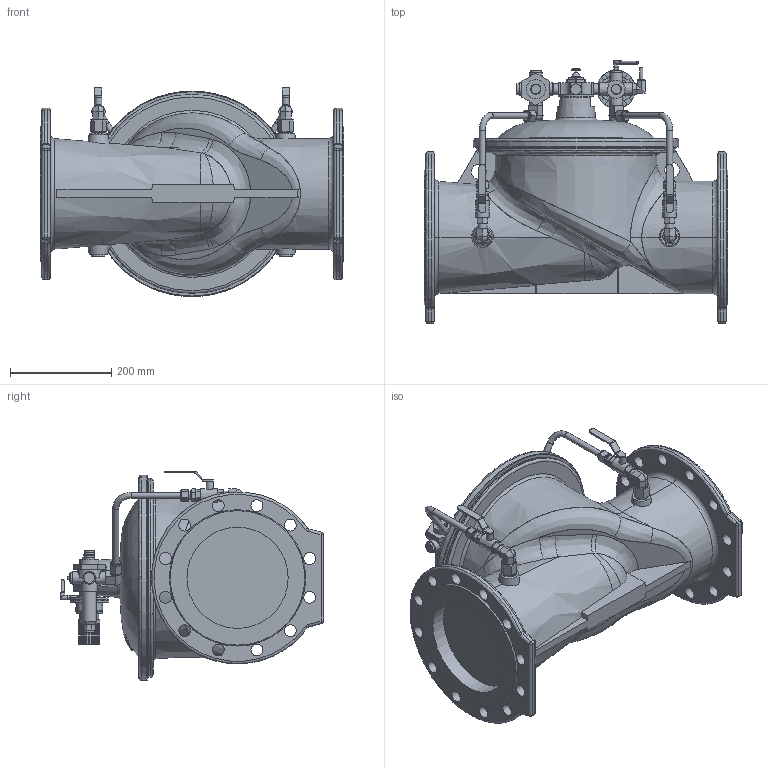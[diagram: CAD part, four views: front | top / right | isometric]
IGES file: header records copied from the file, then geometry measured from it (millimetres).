
Start section: SolidWorks IGES file using analytic representation for surfaces
Global section: file name: \\avksan2\techshare\PBM outline export from Enovia\O_859_00_DN200_1XXXX00_REV01.igs; native system: SolidWorks 2019; preprocessor: SolidWorks 2019; author: pbm; date: 201015.094743; units: millimetre
Bounding box: 600 x 520 x 413.39 mm (x, y, z)
Surface area: 1192660.5 mm2 (no closed solid volume)
Topology: 0 solids, 0 shells, 931 faces, 4493 edges, 4354 vertices
Faces by surface type: bspline 581, revolution 350
